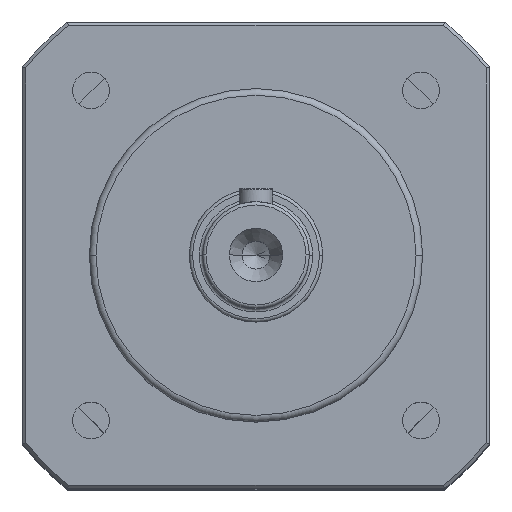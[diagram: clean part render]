
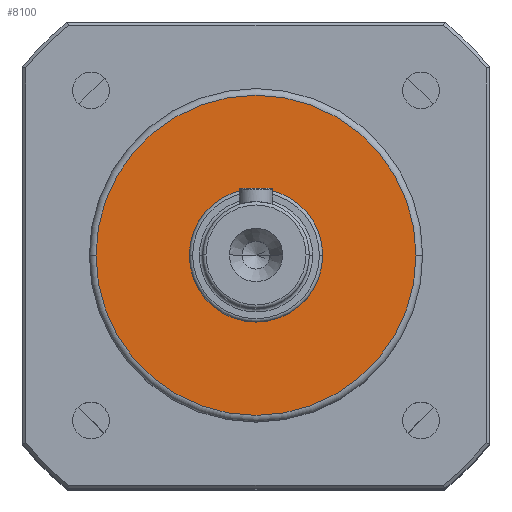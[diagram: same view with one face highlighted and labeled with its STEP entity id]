
A CAD part, top view. The second image highlights one B-rep face of the part: STEP entity #8100.
In plain terms, the highlighted planar face has unit normal (0, 0, 1).
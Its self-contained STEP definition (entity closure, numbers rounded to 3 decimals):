
#89 = ORIENTED_EDGE ( 'NONE', *, *, #341, .T. ) ;
#187 = DIRECTION ( 'NONE',  ( 0., 0., 1. ) ) ;
#198 = VERTEX_POINT ( 'NONE', #4868 ) ;
#341 = EDGE_CURVE ( 'NONE', #198, #7539, #5320, .T. ) ;
#1280 = DIRECTION ( 'NONE',  ( 0., 0., 1. ) ) ;
#1551 = CIRCLE ( 'NONE', #6096, 10. ) ;
#1559 = CARTESIAN_POINT ( 'NONE',  ( 0., 0., 6.5 ) ) ;
#1627 = CIRCLE ( 'NONE', #3519, 24. ) ;
#2203 = DIRECTION ( 'NONE',  ( 1., 0., 0. ) ) ;
#2514 = PLANE ( 'NONE',  #7833 ) ;
#2538 = AXIS2_PLACEMENT_3D ( 'NONE', #1559, #5934, #2203 ) ;
#2712 = EDGE_CURVE ( 'NONE', #7539, #198, #1627, .T. ) ;
#3232 = CARTESIAN_POINT ( 'NONE',  ( -10., 0., 6.5 ) ) ;
#3445 = VERTEX_POINT ( 'NONE', #3232 ) ;
#3519 = AXIS2_PLACEMENT_3D ( 'NONE', #7301, #3555, #7929 ) ;
#3555 = DIRECTION ( 'NONE',  ( 0., 0., 1. ) ) ;
#3660 = CIRCLE ( 'NONE', #2538, 10. ) ;
#3934 = CARTESIAN_POINT ( 'NONE',  ( 0., 0., 6.5 ) ) ;
#3995 = EDGE_LOOP ( 'NONE', ( #4032, #4641 ) ) ;
#4032 = ORIENTED_EDGE ( 'NONE', *, *, #5727, .F. ) ;
#4035 = CARTESIAN_POINT ( 'NONE',  ( -24., 0., 6.5 ) ) ;
#4593 = DIRECTION ( 'NONE',  ( 1., 0., 0. ) ) ;
#4641 = ORIENTED_EDGE ( 'NONE', *, *, #5367, .F. ) ;
#4689 = CARTESIAN_POINT ( 'NONE',  ( 10., 0., 6.5 ) ) ;
#4788 = FACE_BOUND ( 'NONE', #3995, .T. ) ;
#4868 = CARTESIAN_POINT ( 'NONE',  ( 24., 0., 6.5 ) ) ;
#4972 = FACE_OUTER_BOUND ( 'NONE', #6451, .T. ) ;
#5320 = CIRCLE ( 'NONE', #7341, 24. ) ;
#5367 = EDGE_CURVE ( 'NONE', #3445, #6133, #1551, .T. ) ;
#5644 = DIRECTION ( 'NONE',  ( 1., 0., 0. ) ) ;
#5727 = EDGE_CURVE ( 'NONE', #6133, #3445, #3660, .T. ) ;
#5934 = DIRECTION ( 'NONE',  ( 0., 0., 1. ) ) ;
#6096 = AXIS2_PLACEMENT_3D ( 'NONE', #3934, #187, #4593 ) ;
#6133 = VERTEX_POINT ( 'NONE', #4689 ) ;
#6451 = EDGE_LOOP ( 'NONE', ( #89, #6813 ) ) ;
#6813 = ORIENTED_EDGE ( 'NONE', *, *, #2712, .T. ) ;
#7301 = CARTESIAN_POINT ( 'NONE',  ( 0., 0., 6.5 ) ) ;
#7341 = AXIS2_PLACEMENT_3D ( 'NONE', #7572, #7630, #7850 ) ;
#7539 = VERTEX_POINT ( 'NONE', #4035 ) ;
#7572 = CARTESIAN_POINT ( 'NONE',  ( 0., 0., 6.5 ) ) ;
#7630 = DIRECTION ( 'NONE',  ( 0., 0., 1. ) ) ;
#7833 = AXIS2_PLACEMENT_3D ( 'NONE', #8127, #1280, #5644 ) ;
#7850 = DIRECTION ( 'NONE',  ( 1., 0., 0. ) ) ;
#7929 = DIRECTION ( 'NONE',  ( 1., 0., 0. ) ) ;
#8100 = ADVANCED_FACE ( 'NONE', ( #4788, #4972 ), #2514, .T. ) ;
#8127 = CARTESIAN_POINT ( 'NONE',  ( 0., 0., 6.5 ) ) ;
